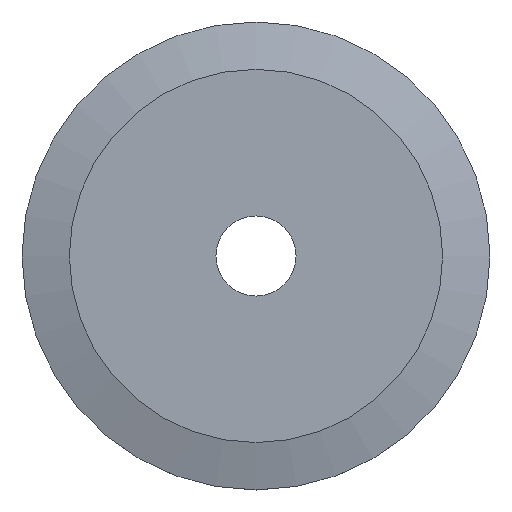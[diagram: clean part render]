
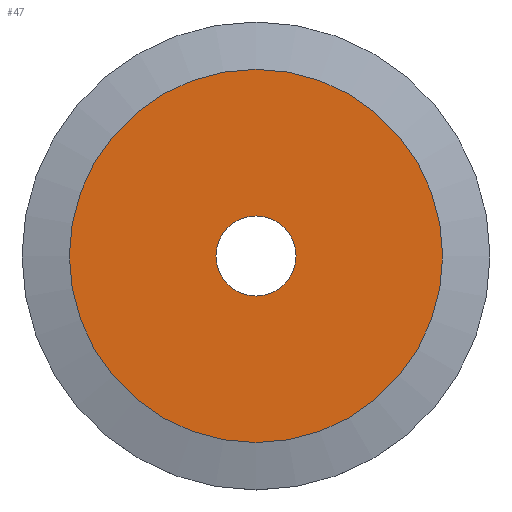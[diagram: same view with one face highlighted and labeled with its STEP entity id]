
A CAD part, top view. The second image highlights one B-rep face of the part: STEP entity #47.
In plain terms, the highlighted planar face has unit normal (0, 0, 1).
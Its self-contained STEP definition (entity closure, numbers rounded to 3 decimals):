
#47 = ADVANCED_FACE( '', ( #96, #97 ), #98, .F. );
#96 = FACE_OUTER_BOUND( '', #139, .T. );
#97 = FACE_BOUND( '', #140, .T. );
#98 = PLANE( '', #141 );
#139 = EDGE_LOOP( '', ( #190 ) );
#140 = EDGE_LOOP( '', ( #191 ) );
#141 = AXIS2_PLACEMENT_3D( '', #192, #193, #194 );
#190 = ORIENTED_EDGE( '', *, *, #213, .F. );
#191 = ORIENTED_EDGE( '', *, *, #216, .F. );
#192 = CARTESIAN_POINT( '', ( 0., 0., 2.54 ) );
#193 = DIRECTION( '', ( 0., 0., -1. ) );
#194 = DIRECTION( '', ( -1., 0., 0. ) );
#213 = EDGE_CURVE( '', #238, #238, #239, .T. );
#216 = EDGE_CURVE( '', #242, #242, #243, .F. );
#238 = VERTEX_POINT( '', #265 );
#239 = CIRCLE( '', #266, 29.881 );
#242 = VERTEX_POINT( '', #269 );
#243 = CIRCLE( '', #270, 6.414 );
#265 = CARTESIAN_POINT( '', ( -29.881, 0., 2.54 ) );
#266 = AXIS2_PLACEMENT_3D( '', #294, #295, #296 );
#269 = CARTESIAN_POINT( '', ( -6.414, 0., 2.54 ) );
#270 = AXIS2_PLACEMENT_3D( '', #297, #298, #299 );
#294 = CARTESIAN_POINT( '', ( 0., 0., 2.54 ) );
#295 = DIRECTION( '', ( 0., 0., -1. ) );
#296 = DIRECTION( '', ( -1., 0., 0. ) );
#297 = CARTESIAN_POINT( '', ( 0., 0., 2.54 ) );
#298 = DIRECTION( '', ( 0., 0., -1. ) );
#299 = DIRECTION( '', ( -1., 0., 0. ) );
